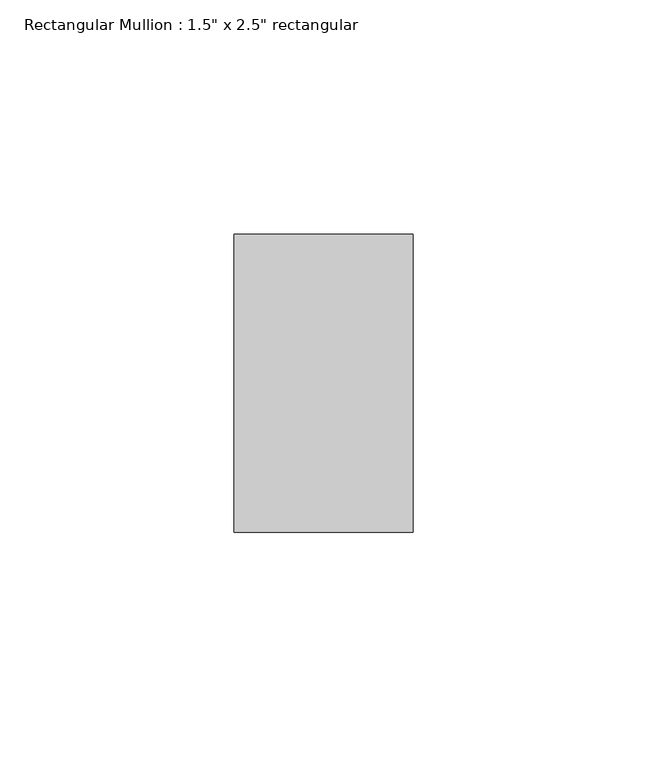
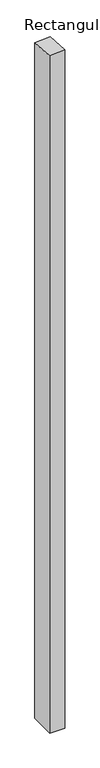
"""IFC4 building model written with IfcOpenShell, lengths in millimetres: member geometry."""

import ifcopenshell
import ifcopenshell.guid

model = None  # the IFC model being written
_history = None  # IfcOwnerHistory: only IFC2X3 demands one
_inside = {}  # id of a spatial element -> (the spatial element, [elements in it])
_under = {}  # id of a project, library or spatial element -> (it, [spatial elements below it])
_declared = {}  # id of a project -> (the project, [libraries it declares])
_typed = {}  # id of a type object -> (the type object, [elements of that type])
_made_of = {}  # id of a material, layer set ... -> (it, [elements and type objects made of it])


def new_model(schema):
    """Start an empty IFC model of exactly this schema.

    Asked for "IFC4X3", IfcOpenShell would pick the latest addendum, in which some entities
    have other attributes; the version numbers below select the first issue.
    IFC2X3 requires an IfcOwnerHistory on every rooted entity: one is made here for all.
    """
    global model, _history
    if schema == "IFC4X3":
        model = ifcopenshell.file(schema_version=(4, 3, 0, 0))
    else:
        model = ifcopenshell.file(schema=schema)
    _inside.clear()
    _under.clear()
    _declared.clear()
    _typed.clear()
    _made_of.clear()
    _history = None
    if model.schema == "IFC2X3":
        org = make("IfcOrganization", Name="unknown")
        user = make(
            "IfcPersonAndOrganization",
            ThePerson=make("IfcPerson", FamilyName="unknown"),
            TheOrganization=org,
        )
        app = make(
            "IfcApplication",
            ApplicationDeveloper=org,
            Version="unknown",
            ApplicationFullName="unknown",
            ApplicationIdentifier="unknown",
        )
        _history = make(
            "IfcOwnerHistory",
            OwningUser=user,
            OwningApplication=app,
            ChangeAction="ADDED",
            CreationDate=0,
        )
    return model


def make(cls, **values):
    """One entity of the class cls with the attributes given. An attribute that is None is left unset."""
    return model.create_entity(
        cls, **{name: value for name, value in values.items() if value is not None}
    )


def rooted(cls, **values):
    """An entity with a GlobalId (a new one), such as an element, a storey or a relation."""
    return make(cls, GlobalId=ifcopenshell.guid.new(), OwnerHistory=_history, **values)


def si_unit(unit_type, name, prefix=None):
    """IfcSIUnit, for example si_unit("LENGTHUNIT", "METRE", prefix="MILLI")."""
    return make("IfcSIUnit", UnitType=unit_type, Prefix=prefix, Name=name)


def assignment(units):
    """IfcUnitAssignment: the units of a project."""
    return None if units is None else make("IfcUnitAssignment", Units=units)


def point(xyz):
    """IfcCartesianPoint."""
    return None if xyz is None else make("IfcCartesianPoint", Coordinates=xyz)


def direction(xyz):
    """IfcDirection."""
    return None if xyz is None else make("IfcDirection", DirectionRatios=xyz)


def frame(location, z_axis=None, x_axis=None):
    """IfcAxis2Placement3D, a coordinate frame: its origin and axes. An axis left out is left unset."""
    return make(
        "IfcAxis2Placement3D",
        Location=point(location),
        Axis=direction(z_axis),
        RefDirection=direction(x_axis),
    )


def origin():
    """The frame at (0, 0, 0) with its axes left unset."""
    return frame((0.0, 0.0, 0.0))


def place(relative_to, where):
    """IfcLocalPlacement: puts the frame where relative to a parent placement (None: the world)."""
    return make(
        "IfcLocalPlacement", PlacementRelTo=relative_to, RelativePlacement=where
    )


def context(
    kind, dimensions, precision=None, world=None, true_north=None, identifier=None
):
    """IfcGeometricRepresentationContext, for example the 3D "Model" context."""
    return make(
        "IfcGeometricRepresentationContext",
        ContextIdentifier=identifier,
        ContextType=kind,
        CoordinateSpaceDimension=dimensions,
        Precision=precision,
        WorldCoordinateSystem=world,
        TrueNorth=true_north,
    )


def project(units=None, contexts=None):
    """IfcProject with its units and contexts."""
    return rooted(
        "IfcProject",
        Name="project",
        RepresentationContexts=contexts,
        UnitsInContext=assignment(units),
    )


def spatial(cls, under=None, at=None, **own):
    """A site, building, storey or space (cls), placed at a placement, below another one or the project."""
    s = rooted(cls, ObjectPlacement=at, **own)
    if under is not None:
        _under.setdefault(under.id(), (under, []))[1].append(s)
    return s


def faces_of(points, faces, orient=None, outer=None):
    """IfcFace entities. A face is a list of loops; a loop is a list of indices into points, from 0.

    orient and outer hold one flag for each loop. By default every Orientation is true, the
    first loop of a face is its IfcFaceOuterBound and the others are IfcFaceBound.
    """
    made = []
    for i, loops in enumerate(faces):
        bounds = []
        for j, loop in enumerate(loops):
            is_outer = j == 0 if outer is None else outer[i][j]
            bounds.append(
                make(
                    "IfcFaceOuterBound" if is_outer else "IfcFaceBound",
                    Bound=make("IfcPolyLoop", Polygon=[points[k] for k in loop]),
                    Orientation=True if orient is None else orient[i][j],
                )
            )
        made.append(make("IfcFace", Bounds=bounds))
    return made


def faceted_brep(points, faces, orient=None, outer=None, voids=None):
    """IfcFacetedBrep: a solid bounded by flat faces; with voids (closed shells), ...WithVoids."""
    shared = [point(p) for p in points]
    hull = make("IfcClosedShell", CfsFaces=faces_of(shared, faces, orient, outer))
    if voids is None:
        return make("IfcFacetedBrep", Outer=hull)
    return make(
        "IfcFacetedBrepWithVoids",
        Outer=hull,
        Voids=[
            make(cls, CfsFaces=faces_of(shared, fs, o, b)) for cls, fs, o, b in voids
        ],
    )


def shape(context_of_items, identifier, shape_type, items):
    """IfcShapeRepresentation: the items that make up one representation, for example the "Body"."""
    return make(
        "IfcShapeRepresentation",
        ContextOfItems=context_of_items,
        RepresentationIdentifier=identifier,
        RepresentationType=shape_type,
        Items=items,
    )


def source(mapping_origin, context_of_items, identifier, shape_type, items):
    """IfcRepresentationMap: a shape defined once, which mapped items show again and again."""
    return make(
        "IfcRepresentationMap",
        MappingOrigin=mapping_origin,
        MappedRepresentation=shape(context_of_items, identifier, shape_type, items),
    )


def transform(
    local_origin,
    x_axis=None,
    y_axis=None,
    z_axis=None,
    scale=None,
    scale2=None,
    scale3=None,
    uniform=True,
):
    """IfcCartesianTransformationOperator3D, or its non-uniform kind. x_axis, y_axis, z_axis: its Axis1, 2, 3."""
    if uniform:
        return make(
            "IfcCartesianTransformationOperator3D",
            Axis1=direction(x_axis),
            Axis2=direction(y_axis),
            LocalOrigin=point(local_origin),
            Scale=scale,
            Axis3=direction(z_axis),
        )
    return make(
        "IfcCartesianTransformationOperator3DnonUniform",
        Axis1=direction(x_axis),
        Axis2=direction(y_axis),
        LocalOrigin=point(local_origin),
        Scale=scale,
        Axis3=direction(z_axis),
        Scale2=scale2,
        Scale3=scale3,
    )


def mapped(mapping_source, mapping_target):
    """IfcMappedItem: shows the shape of a source again, moved by a transform."""
    return make(
        "IfcMappedItem", MappingSource=mapping_source, MappingTarget=mapping_target
    )


def made_of(thing, what):
    """Note that an element or type object is made of a material, layer set ...; save() writes the relation."""
    if what is not None:
        _made_of.setdefault(what.id(), (what, []))[1].append(thing)
    return thing


def element(
    cls,
    number,
    at=None,
    inside=None,
    cuts=None,
    type_object=None,
    material=None,
    context=None,
    identifier="Body",
    shape_type=None,
    held_by="IfcProductDefinitionShape",
    body=None,
    shapes=None,
    **own,
):
    """One element of the class cls, such as IfcWall. Its Tag is "e" and its number.

    at: its placement. inside: the storey or other place that contains it. cuts: it is an
    opening in that element (IfcRelVoidsElement). A single representation is given by context,
    identifier, shape_type and body (its items); several are given by shapes. held_by: the class
    of the entity that holds the representations. save() writes the other relations.
    """
    e = rooted(cls, Tag="e%d" % number, ObjectPlacement=at, **own)
    if body is not None:
        shapes = [shape(context, identifier, shape_type, body)]
    if shapes is not None:
        e.Representation = make(held_by, Representations=shapes)
    if inside is not None:
        _inside.setdefault(inside.id(), (inside, []))[1].append(e)
    if cuts is not None:
        rooted(
            "IfcRelVoidsElement", RelatingBuildingElement=cuts, RelatedOpeningElement=e
        )
    if type_object is not None:
        _typed.setdefault(type_object.id(), (type_object, []))[1].append(e)
    return made_of(e, material)


def aggregate(whole, parts):
    """IfcRelAggregates: a whole, such as a stair, and the parts it consists of."""
    return rooted("IfcRelAggregates", RelatingObject=whole, RelatedObjects=parts)


def save(model, path):
    """Write the relations noted so far, then the file.

    IfcRelAggregates (storeys below a building ...), IfcRelContainedInSpatialStructure (elements
    in a storey), IfcRelDefinesByType, IfcRelAssociatesMaterial and IfcRelDeclares: one each for
    every whole, place, type object, material and project.
    """
    for whole, parts in _under.values():
        aggregate(whole, parts)
    for where, things in _inside.values():
        rooted(
            "IfcRelContainedInSpatialStructure",
            RelatedElements=things,
            RelatingStructure=where,
        )
    for kind, things in _typed.values():
        rooted("IfcRelDefinesByType", RelatedObjects=things, RelatingType=kind)
    for what, things in _made_of.values():
        rooted("IfcRelAssociatesMaterial", RelatedObjects=things, RelatingMaterial=what)
    for by, libraries in _declared.values():
        rooted("IfcRelDeclares", RelatingContext=by, RelatedDefinitions=libraries)
    model.write(path)


def member_6563c648(model_context):
    return source(origin(), model_context, "Body", "Brep", [
        faceted_brep([(0.0, 31.75, -1782.1543819), (0.0, -31.75, -1782.1543819), (-38.1, -31.75, -1782.1543819), (-38.1, 31.75, -1782.1543819), (-38.1, 31.75, -5.2360452), (0.0, 31.75, -2.3878431), (-38.1, -31.75, -0.460359), (0.0, -31.75, 2.3878431)], [[[0, 1, 2, 3]], [[4, 5, 0, 3]], [[6, 4, 3, 2]], [[7, 6, 2, 1]], [[5, 7, 1, 0]], [[5, 4, 6, 7]]]),
    ])


if __name__ == "__main__":
    model = new_model("IFC4")
    model_context = context("Model", 3, world=origin())
    ifc_project = project(units=[si_unit("LENGTHUNIT", "METRE", prefix="MILLI")], contexts=[model_context])
    site = spatial("IfcSite", under=ifc_project)
    building = spatial("IfcBuilding", under=site)
    placement = place(None, origin())
    member_shape = member_6563c648(model_context)
    element("IfcMember", 1, ObjectType="Rectangular Mullion : 1.5\" x 2.5\" rectangular", at=placement, inside=building, context=model_context, shape_type="MappedRepresentation", body=[
        mapped(member_shape, transform((0.0, 0.0, 0.0), x_axis=(1.0, 0.0, 0.0), y_axis=(0.0, 1.0, 0.0), z_axis=(0.0, 0.0, 1.0))),
    ])
    save(model, "model.ifc")
